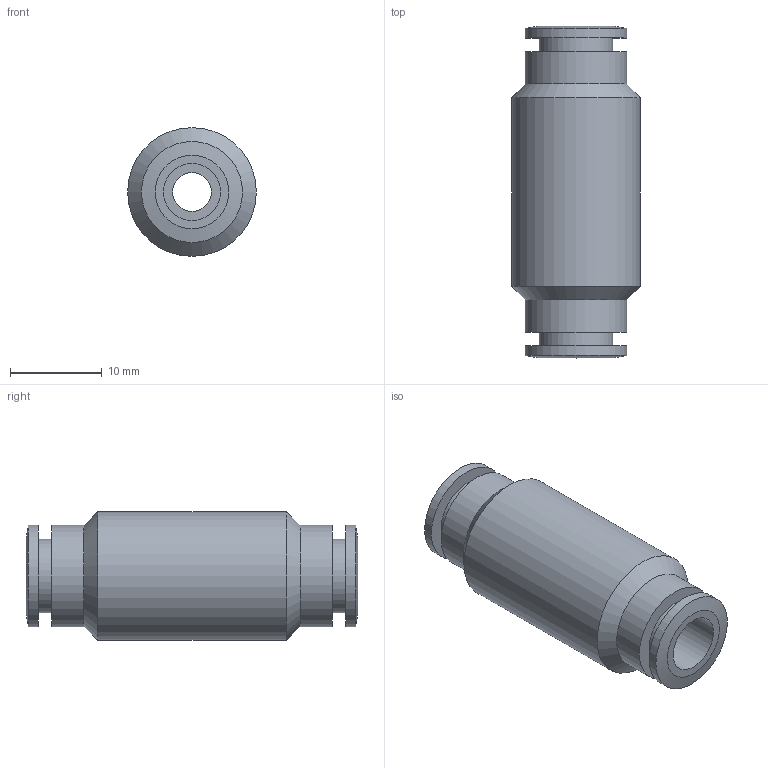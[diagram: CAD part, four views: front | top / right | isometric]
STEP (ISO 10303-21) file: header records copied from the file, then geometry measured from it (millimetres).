
FILE_DESCRIPTION((''),'2;1');
FILE_NAME('C:\Documents and Settings\rivolro1\Documenti\copia di Raccordi\PLASTICA\T10XX00\T100600.stp','2007-10-30T17:28:30',('Rivolro1'),(''),'Autodesk Inventor 2008','Autodesk Inventor 2008','');
FILE_SCHEMA(('AUTOMOTIVE_DESIGN { 1 0 10303 214 1 1 1 1 }'));
Length unit declared in the file: millimetre
Products named in the file (1): T100600
Bounding box: 14 x 36.1 x 14 mm (x, y, z)
Volume: 3556.6 mm3; surface area: 2475.9 mm2
Topology: 1 solids, 1 shells, 22 faces, 37 edges, 23 vertices
Faces by surface type: cylinder 8, plane 6, bspline 4, cone 4
Full cylindrical faces by diameter (mm): 4.2 x1, 8 x2, 11 x4, 14 x1
Entity records: 523 total; most frequent: CARTESIAN_POINT 107, DIRECTION 82, ORIENTED_EDGE 44, EDGE_LOOP 44, AXIS2_PLACEMENT_3D 41, VERTEX_POINT 22, CIRCLE 22, EDGE_CURVE 22
